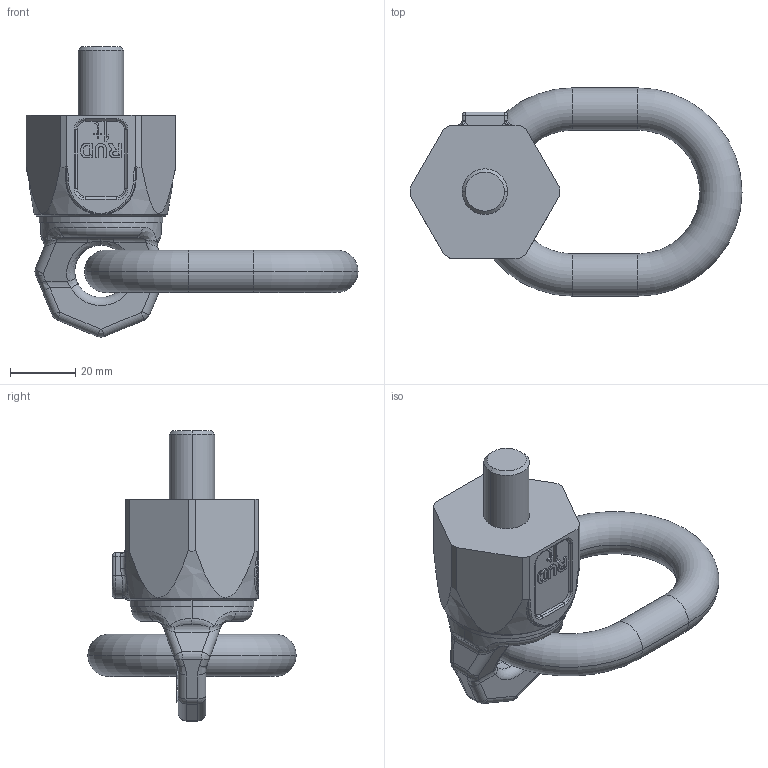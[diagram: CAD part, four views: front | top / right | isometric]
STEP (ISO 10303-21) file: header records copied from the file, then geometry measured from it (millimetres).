
FILE_DESCRIPTION((''),'2;1');
FILE_NAME('001-M32371-P-10_ASM','2018-05-09T',('Anja.Joas'),(''),'PRO/ENGINEER BY PARAMETRIC TECHNOLOGY CORPORATION, 2011490','PRO/ENGINEER BY PARAMETRIC TECHNOLOGY CORPORATION, 2011490','');
FILE_SCHEMA(('CONFIG_CONTROL_DESIGN'));
Length unit declared in the file: millimetre
Products named in the file (5): 001-M31523-P-60_AF0; 001-M31527-P-2; 001-M09397-P-40_AF0; 001-M09397-P-3; 001-M32371-P-10_ASM
Assembly tree (4 placements, depth 2):
  001-M32371-P-10_ASM
    001-M31523-P-60_AF0
    001-M31527-P-2
    001-M09397-P-40_AF0
    001-M09397-P-3
Bounding box: 102 x 64 x 89.24 mm (x, y, z)
Volume: 89626.2 mm3; surface area: 23702.1 mm2
Topology: 4 solids, 4 shells, 612 faces, 1628 edges, 1047 vertices
Faces by surface type: plane 441, cylinder 75, bspline 59, torus 29, cone 5, sphere 2, extrusion 1
Entity records: 21981 total; most frequent: CARTESIAN_POINT 6976, ORIENTED_EDGE 3256, DIRECTION 2834, EDGE_CURVE 1628, VECTOR 1276, LINE 1275, VERTEX_POINT 1047, AXIS2_PLACEMENT_3D 779
